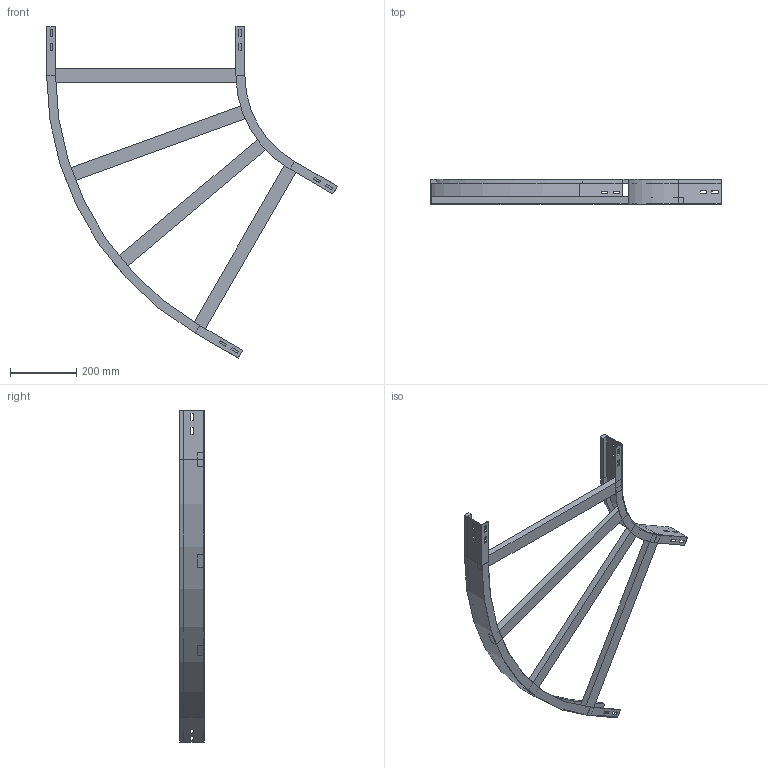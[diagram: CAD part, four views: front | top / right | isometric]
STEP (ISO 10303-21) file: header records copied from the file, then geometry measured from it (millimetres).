
FILE_DESCRIPTION (( 'STEP AP214' ), '1' );
FILE_NAME ('A2_13B3C600.step', '2025-02-21T15:21:19', ( '' ), ( '' ), 'SwSTEP 2.0', 'SolidWorks 2023', '' );
FILE_SCHEMA (( 'AUTOMOTIVE_DESIGN' ));
Length unit declared in the file: millimetre
Products named in the file (4): TRAVERSINO_600; A2_LONGH.ESTERNO 60°_H75_R300+600; A2_LONGH.INTERNO 60°_H75_R300; A2_13B3C600
Assembly tree (6 placements, depth 2):
  A2_13B3C600
    A2_LONGH.INTERNO 60°_H75_R300
    A2_LONGH.ESTERNO 60°_H75_R300+600
    TRAVERSINO_600  x4
Bounding box: 879.9 x 75 x 1004.42 mm (x, y, z)
Volume: 2653913.7 mm3; surface area: 731606.3 mm2
Topology: 6 solids, 6 shells, 140 faces, 352 edges, 224 vertices
Faces by surface type: plane 132, cylinder 8
Entity records: 3829 total; most frequent: CARTESIAN_POINT 647, ORIENTED_EDGE 632, DIRECTION 594, EDGE_CURVE 316, VECTOR 300, LINE 300, VERTEX_POINT 200, EDGE_LOOP 154
